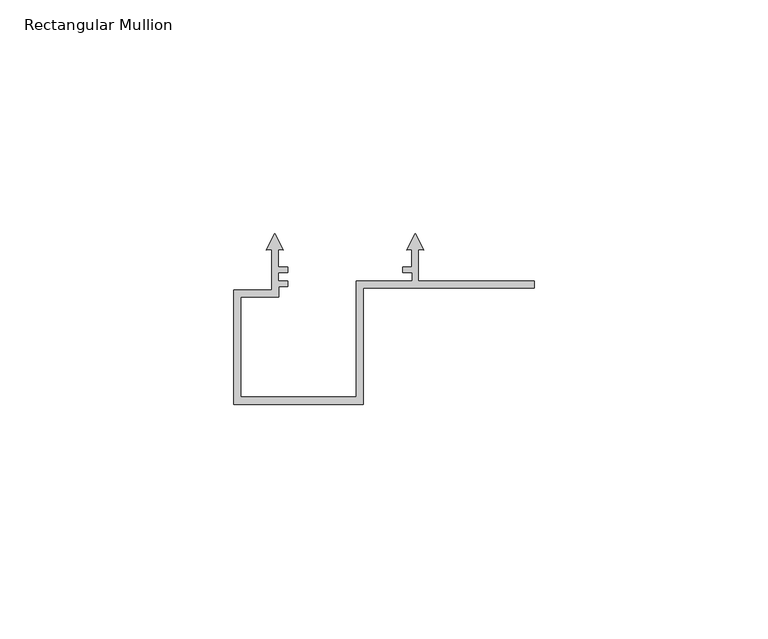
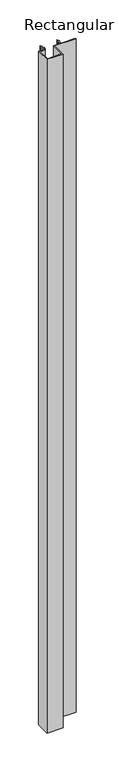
"""IFC4 building model written with IfcOpenShell, lengths in millimetres: member geometry, Rectangular Mullion : Renson_Linarte_LA-B25-01."""

import ifcopenshell
import ifcopenshell.guid

model = None  # the IFC model being written
_history = None  # IfcOwnerHistory: only IFC2X3 demands one
_inside = {}  # id of a spatial element -> (the spatial element, [elements in it])
_under = {}  # id of a project, library or spatial element -> (it, [spatial elements below it])
_declared = {}  # id of a project -> (the project, [libraries it declares])
_typed = {}  # id of a type object -> (the type object, [elements of that type])
_made_of = {}  # id of a material, layer set ... -> (it, [elements and type objects made of it])


def new_model(schema):
    """Start an empty IFC model of exactly this schema.

    Asked for "IFC4X3", IfcOpenShell would pick the latest addendum, in which some entities
    have other attributes; the version numbers below select the first issue.
    IFC2X3 requires an IfcOwnerHistory on every rooted entity: one is made here for all.
    """
    global model, _history
    if schema == "IFC4X3":
        model = ifcopenshell.file(schema_version=(4, 3, 0, 0))
    else:
        model = ifcopenshell.file(schema=schema)
    _inside.clear()
    _under.clear()
    _declared.clear()
    _typed.clear()
    _made_of.clear()
    _history = None
    if model.schema == "IFC2X3":
        org = make("IfcOrganization", Name="unknown")
        user = make(
            "IfcPersonAndOrganization",
            ThePerson=make("IfcPerson", FamilyName="unknown"),
            TheOrganization=org,
        )
        app = make(
            "IfcApplication",
            ApplicationDeveloper=org,
            Version="unknown",
            ApplicationFullName="unknown",
            ApplicationIdentifier="unknown",
        )
        _history = make(
            "IfcOwnerHistory",
            OwningUser=user,
            OwningApplication=app,
            ChangeAction="ADDED",
            CreationDate=0,
        )
    return model


def make(cls, **values):
    """One entity of the class cls with the attributes given. An attribute that is None is left unset."""
    return model.create_entity(
        cls, **{name: value for name, value in values.items() if value is not None}
    )


def rooted(cls, **values):
    """An entity with a GlobalId (a new one), such as an element, a storey or a relation."""
    return make(cls, GlobalId=ifcopenshell.guid.new(), OwnerHistory=_history, **values)


def si_unit(unit_type, name, prefix=None):
    """IfcSIUnit, for example si_unit("LENGTHUNIT", "METRE", prefix="MILLI")."""
    return make("IfcSIUnit", UnitType=unit_type, Prefix=prefix, Name=name)


def assignment(units):
    """IfcUnitAssignment: the units of a project."""
    return None if units is None else make("IfcUnitAssignment", Units=units)


def point(xyz):
    """IfcCartesianPoint."""
    return None if xyz is None else make("IfcCartesianPoint", Coordinates=xyz)


def direction(xyz):
    """IfcDirection."""
    return None if xyz is None else make("IfcDirection", DirectionRatios=xyz)


def frame(location, z_axis=None, x_axis=None):
    """IfcAxis2Placement3D, a coordinate frame: its origin and axes. An axis left out is left unset."""
    return make(
        "IfcAxis2Placement3D",
        Location=point(location),
        Axis=direction(z_axis),
        RefDirection=direction(x_axis),
    )


def origin():
    """The frame at (0, 0, 0) with its axes left unset."""
    return frame((0.0, 0.0, 0.0))


def place(relative_to, where):
    """IfcLocalPlacement: puts the frame where relative to a parent placement (None: the world)."""
    return make(
        "IfcLocalPlacement", PlacementRelTo=relative_to, RelativePlacement=where
    )


def context(
    kind, dimensions, precision=None, world=None, true_north=None, identifier=None
):
    """IfcGeometricRepresentationContext, for example the 3D "Model" context."""
    return make(
        "IfcGeometricRepresentationContext",
        ContextIdentifier=identifier,
        ContextType=kind,
        CoordinateSpaceDimension=dimensions,
        Precision=precision,
        WorldCoordinateSystem=world,
        TrueNorth=true_north,
    )


def project(units=None, contexts=None):
    """IfcProject with its units and contexts."""
    return rooted(
        "IfcProject",
        Name="project",
        RepresentationContexts=contexts,
        UnitsInContext=assignment(units),
    )


def spatial(cls, under=None, at=None, **own):
    """A site, building, storey or space (cls), placed at a placement, below another one or the project."""
    s = rooted(cls, ObjectPlacement=at, **own)
    if under is not None:
        _under.setdefault(under.id(), (under, []))[1].append(s)
    return s


def polyline(points):
    """IfcPolyline through the points."""
    return make("IfcPolyline", Points=[point(p) for p in points])


def outline(outer, holes=None, kind="AREA"):
    """IfcArbitraryClosedProfileDef: a profile drawn as a closed curve; with holes, ...WithVoids."""
    if holes is None:
        return make("IfcArbitraryClosedProfileDef", ProfileType=kind, OuterCurve=outer)
    return make(
        "IfcArbitraryProfileDefWithVoids",
        ProfileType=kind,
        OuterCurve=outer,
        InnerCurves=holes,
    )


def extrude(swept, where, along, depth):
    """IfcExtrudedAreaSolid: the profile swept, set in the frame where, extruded along a direction by depth."""
    return make(
        "IfcExtrudedAreaSolid",
        SweptArea=swept,
        Position=where,
        ExtrudedDirection=direction(along),
        Depth=depth,
    )


def shape(context_of_items, identifier, shape_type, items):
    """IfcShapeRepresentation: the items that make up one representation, for example the "Body"."""
    return make(
        "IfcShapeRepresentation",
        ContextOfItems=context_of_items,
        RepresentationIdentifier=identifier,
        RepresentationType=shape_type,
        Items=items,
    )


def source(mapping_origin, context_of_items, identifier, shape_type, items):
    """IfcRepresentationMap: a shape defined once, which mapped items show again and again."""
    return make(
        "IfcRepresentationMap",
        MappingOrigin=mapping_origin,
        MappedRepresentation=shape(context_of_items, identifier, shape_type, items),
    )


def transform(
    local_origin,
    x_axis=None,
    y_axis=None,
    z_axis=None,
    scale=None,
    scale2=None,
    scale3=None,
    uniform=True,
):
    """IfcCartesianTransformationOperator3D, or its non-uniform kind. x_axis, y_axis, z_axis: its Axis1, 2, 3."""
    if uniform:
        return make(
            "IfcCartesianTransformationOperator3D",
            Axis1=direction(x_axis),
            Axis2=direction(y_axis),
            LocalOrigin=point(local_origin),
            Scale=scale,
            Axis3=direction(z_axis),
        )
    return make(
        "IfcCartesianTransformationOperator3DnonUniform",
        Axis1=direction(x_axis),
        Axis2=direction(y_axis),
        LocalOrigin=point(local_origin),
        Scale=scale,
        Axis3=direction(z_axis),
        Scale2=scale2,
        Scale3=scale3,
    )


def mapped(mapping_source, mapping_target):
    """IfcMappedItem: shows the shape of a source again, moved by a transform."""
    return make(
        "IfcMappedItem", MappingSource=mapping_source, MappingTarget=mapping_target
    )


def made_of(thing, what):
    """Note that an element or type object is made of a material, layer set ...; save() writes the relation."""
    if what is not None:
        _made_of.setdefault(what.id(), (what, []))[1].append(thing)
    return thing


def element(
    cls,
    number,
    at=None,
    inside=None,
    cuts=None,
    type_object=None,
    material=None,
    context=None,
    identifier="Body",
    shape_type=None,
    held_by="IfcProductDefinitionShape",
    body=None,
    shapes=None,
    **own,
):
    """One element of the class cls, such as IfcWall. Its Tag is "e" and its number.

    at: its placement. inside: the storey or other place that contains it. cuts: it is an
    opening in that element (IfcRelVoidsElement). A single representation is given by context,
    identifier, shape_type and body (its items); several are given by shapes. held_by: the class
    of the entity that holds the representations. save() writes the other relations.
    """
    e = rooted(cls, Tag="e%d" % number, ObjectPlacement=at, **own)
    if body is not None:
        shapes = [shape(context, identifier, shape_type, body)]
    if shapes is not None:
        e.Representation = make(held_by, Representations=shapes)
    if inside is not None:
        _inside.setdefault(inside.id(), (inside, []))[1].append(e)
    if cuts is not None:
        rooted(
            "IfcRelVoidsElement", RelatingBuildingElement=cuts, RelatedOpeningElement=e
        )
    if type_object is not None:
        _typed.setdefault(type_object.id(), (type_object, []))[1].append(e)
    return made_of(e, material)


def aggregate(whole, parts):
    """IfcRelAggregates: a whole, such as a stair, and the parts it consists of."""
    return rooted("IfcRelAggregates", RelatingObject=whole, RelatedObjects=parts)


def save(model, path):
    """Write the relations noted so far, then the file.

    IfcRelAggregates (storeys below a building ...), IfcRelContainedInSpatialStructure (elements
    in a storey), IfcRelDefinesByType, IfcRelAssociatesMaterial and IfcRelDeclares: one each for
    every whole, place, type object, material and project.
    """
    for whole, parts in _under.values():
        aggregate(whole, parts)
    for where, things in _inside.values():
        rooted(
            "IfcRelContainedInSpatialStructure",
            RelatedElements=things,
            RelatingStructure=where,
        )
    for kind, things in _typed.values():
        rooted("IfcRelDefinesByType", RelatedObjects=things, RelatingType=kind)
    for what, things in _made_of.values():
        rooted("IfcRelAssociatesMaterial", RelatedObjects=things, RelatingMaterial=what)
    for by, libraries in _declared.values():
        rooted("IfcRelDeclares", RelatingContext=by, RelatedDefinitions=libraries)
    model.write(path)


def rectangular_mullion_ed2689c2(model_context):
    return source(origin(), model_context, "Body", "SweptSolid", [
        extrude(outline(polyline([(-36.6500002, -61.6), (-64.3500002, -61.6), (-64.3500002, -37.0995654), (-56.2091809, -37.0995654), (-56.2091809, -28.5038205), (-57.3249174, -28.6014348), (-55.5091808, -25.0378474), (-53.6934442, -28.6014348), (-54.8091807, -28.5038206), (-54.8091807, -32.198351), (-52.8216175, -32.198351), (-52.8216175, -33.4004386), (-54.8, -33.4004386), (-54.8, -35.1999954), (-52.8211027, -35.1999954), (-52.8211027, -36.4015214), (-54.6997126, -36.4015214), (-54.6997126, -38.5997951), (-62.8500002, -38.5997951), (-62.8500002, -60.0999997), (-38.1500002, -60.0999997), (-38.1500002, -35.1999997), (-26.1000012, -35.1999997), (-26.1000012, -33.4008281), (-28.1922643, -33.4008281), (-28.1922643, -32.1999997), (-26.2000002, -32.1999997), (-26.2000002, -28.5038204), (-27.315738, -28.6014348), (-25.5000014, -25.0378474), (-23.6842647, -28.6014348), (-24.8, -28.5038207), (-24.8, -35.2056679), (0.0, -35.2056679), (0.0, -36.7004291), (-36.6500002, -36.7004291), (-36.6500002, -61.6)])), frame((0.0, 0.0, -1225.5020157), z_axis=(0.0, 0.0, 1.0), x_axis=(1.0, 0.0, 0.0)), (0.0, 0.0, 1.0), 1225.5020157),
    ])


if __name__ == "__main__":
    model = new_model("IFC4")
    model_context = context("Model", 3, world=origin())
    ifc_project = project(units=[si_unit("LENGTHUNIT", "METRE", prefix="MILLI")], contexts=[model_context])
    site = spatial("IfcSite", under=ifc_project)
    building = spatial("IfcBuilding", under=site)
    placement = place(None, origin())
    rectangular_mullion_shape = rectangular_mullion_ed2689c2(model_context)
    element("IfcMember", 1, ObjectType="Rectangular Mullion : Renson_Linarte_LA-B25-01", at=placement, inside=building, context=model_context, shape_type="MappedRepresentation", body=[
        mapped(rectangular_mullion_shape, transform((0.0, 0.0, 0.0), x_axis=(1.0, 0.0, 0.0), y_axis=(0.0, 1.0, 0.0), z_axis=(0.0, 0.0, 1.0))),
    ])
    save(model, "model.ifc")
